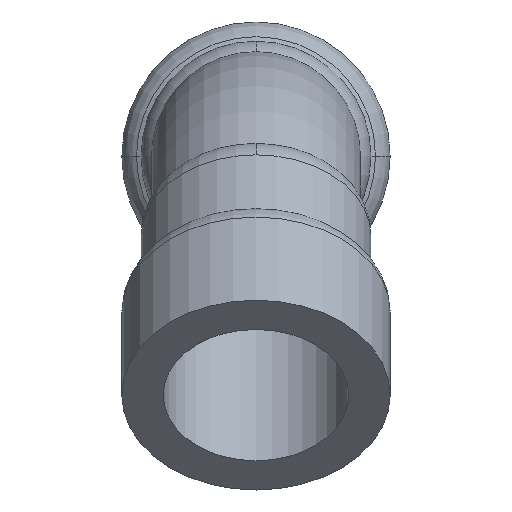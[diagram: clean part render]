
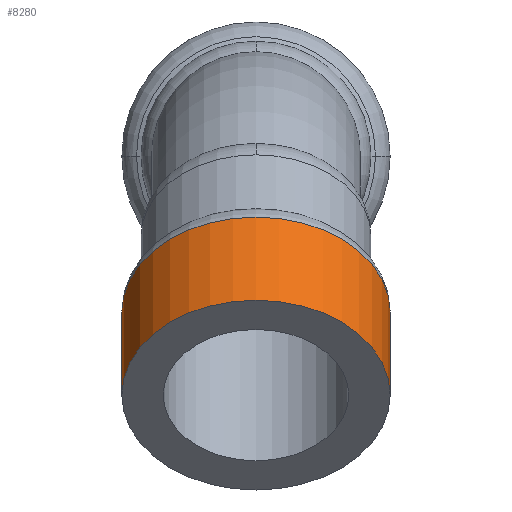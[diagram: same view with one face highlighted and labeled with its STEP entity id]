
A CAD part, left-side view. The second image highlights one B-rep face of the part: STEP entity #8280.
In plain terms, the highlighted cylindrical face has radius 16.05 mm (diameter 32.1 mm), a partial arc.
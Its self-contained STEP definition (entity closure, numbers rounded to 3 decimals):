
#3330=CARTESIAN_POINT('',(7.661,64.209,
0.));
#3340=DIRECTION('',(-1.,0.,0.));
#3350=DIRECTION('',(0.,0.,-1.));
#3360=AXIS2_PLACEMENT_3D('',#3330,#3340,#3350);
#3370=CIRCLE('',#3360,16.05);
#3380=CARTESIAN_POINT('',(7.661,64.209,-16.05));
#3390=VERTEX_POINT('',#3380);
#3400=CARTESIAN_POINT('',(7.661,64.209,16.05));
#3410=VERTEX_POINT('',#3400);
#3440=EDGE_CURVE('',#3410,#3390,#3370,.T.);
#6310=CARTESIAN_POINT('',(21.723,64.209,-16.05));
#6320=VERTEX_POINT('',#6310);
#6350=CARTESIAN_POINT('',(21.723,64.209,
0.));
#6360=DIRECTION('',(-1.,0.,0.));
#6370=DIRECTION('',(0.,0.,1.));
#6380=AXIS2_PLACEMENT_3D('',#6350,#6360,#6370);
#6390=CIRCLE('',#6380,16.05);
#6400=CARTESIAN_POINT('',(21.723,64.209,16.05));
#6410=VERTEX_POINT('',#6400);
#6600=CARTESIAN_POINT('',(21.118,64.209,-16.05));
#6610=DIRECTION('',(-1.,0.,0.));
#6620=VECTOR('',#6610,1.);
#6630=LINE('',#6600,#6620);
#6640=EDGE_CURVE('',#6320,#3390,#6630,.T.);
#6670=CARTESIAN_POINT('',(21.118,64.209,16.05));
#6680=DIRECTION('',(-1.,0.,0.));
#6690=VECTOR('',#6680,1.);
#6700=LINE('',#6670,#6690);
#6710=EDGE_CURVE('',#6410,#3410,#6700,.T.);
#8160=CARTESIAN_POINT('',(21.118,64.209,
0.));
#8170=DIRECTION('',(-1.,0.,0.));
#8180=DIRECTION('',(0.,0.,-1.));
#8190=AXIS2_PLACEMENT_3D('',#8160,#8170,#8180);
#8200=CYLINDRICAL_SURFACE('',#8190,16.05);
#8210=ORIENTED_EDGE('',*,*,#6640,.T.);
#8220=EDGE_CURVE('',#6410,#6320,#6390,.T.);
#8230=ORIENTED_EDGE('',*,*,#8220,.T.);
#8240=ORIENTED_EDGE('',*,*,#6710,.F.);
#8250=ORIENTED_EDGE('',*,*,#3440,.F.);
#8260=EDGE_LOOP('',(#8250,#8240,#8230,#8210));
#8270=FACE_OUTER_BOUND('',#8260,.T.);
#8280=ADVANCED_FACE('',(#8270),#8200,.T.);
